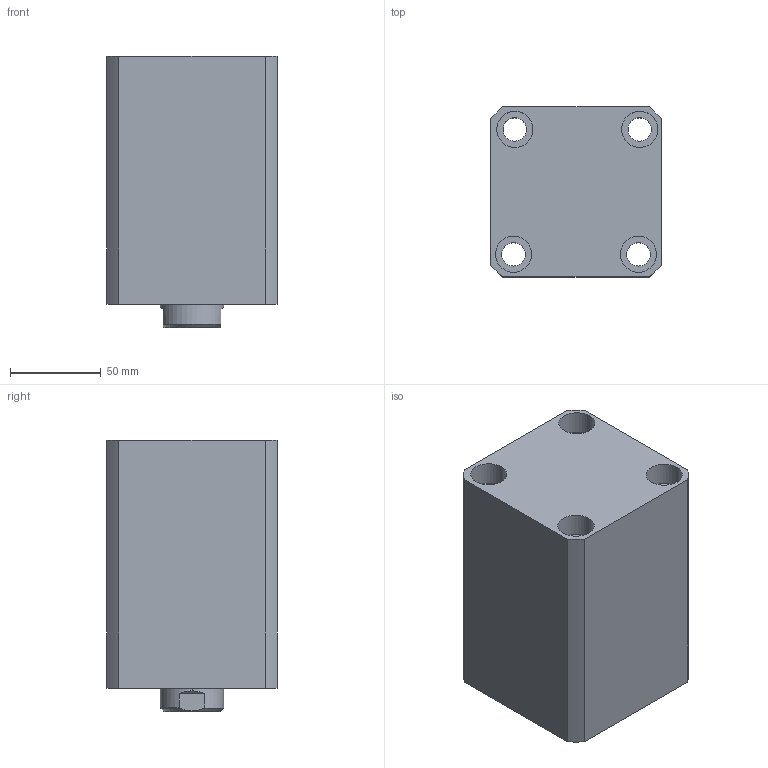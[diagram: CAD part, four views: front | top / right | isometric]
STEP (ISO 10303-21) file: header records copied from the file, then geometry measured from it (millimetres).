
FILE_DESCRIPTION (( 'STEP AP214' ), '1' );
FILE_NAME ('chtb-sdma63x70n_asm.STEP', '2018-05-16T02:35:36', ( 'Windows' ), ( 'Microsoft' ), 'SwSTEP 2.0', 'SolidWorks 2015', '' );
FILE_SCHEMA (( 'AUTOMOTIVE_DESIGN' ));
Length unit declared in the file: millimetre
Products named in the file (4): CHTB63X70NHSG; CHTB-63QG; chtb-sdma63x70n_asm; CHTB-SDMA63X70NBT
Assembly tree (3 placements, depth 2):
  chtb-sdma63x70n_asm
    CHTB-63QG
    CHTB63X70NHSG
    CHTB-SDMA63X70NBT
Bounding box: 94 x 94 x 150 mm (x, y, z)
Volume: 956463.1 mm3; surface area: 162549.7 mm2
Topology: 3 solids, 3 shells, 165 faces, 472 edges, 321 vertices
Faces by surface type: cylinder 107, plane 31, bspline 12, cone 8, torus 7
Entity records: 17727 total; most frequent: CARTESIAN_POINT 13576, ORIENTED_EDGE 932, DIRECTION 716, EDGE_CURVE 466, VERTEX_POINT 321, AXIS2_PLACEMENT_3D 288, EDGE_LOOP 197, FACE_OUTER_BOUND 165
